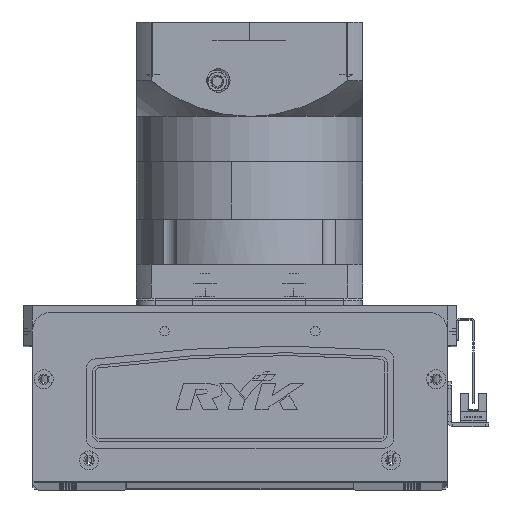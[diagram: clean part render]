
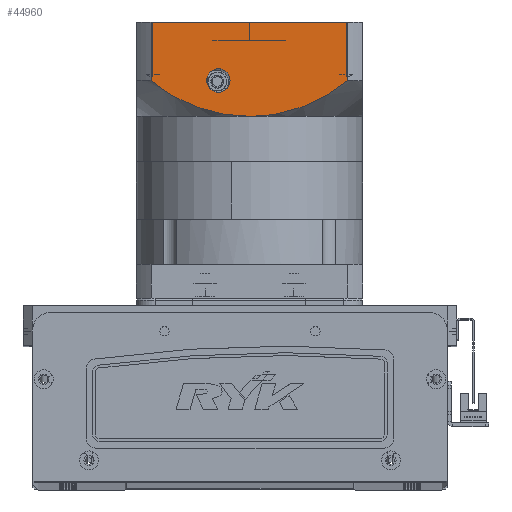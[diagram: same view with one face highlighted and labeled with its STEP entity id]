
A CAD part, top view. The second image highlights one B-rep face of the part: STEP entity #44960.
In plain terms, the highlighted planar face has unit normal (0, 0, 1) as drawn and (0, -1, 0) by its records, which use the part's own axes.
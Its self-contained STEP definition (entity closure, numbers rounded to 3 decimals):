
#1269 = AXIS2_PLACEMENT_3D ( 'NONE', #45824, #35621, #36074 ) ;
#1471 = DIRECTION ( 'NONE',  ( 0., 0., 1. ) ) ;
#1584 = ORIENTED_EDGE ( 'NONE', *, *, #1803, .F. ) ;
#1803 = EDGE_CURVE ( 'NONE', #60225, #49167, #32458, .T. ) ;
#3516 = CARTESIAN_POINT ( 'NONE',  ( -38.51, -60., -110.207 ) ) ;
#4438 = CARTESIAN_POINT ( 'NONE',  ( 45.542, -60., -114.478 ) ) ;
#4439 = CIRCLE ( 'NONE', #1269, 6.25 ) ;
#5550 = CARTESIAN_POINT ( 'NONE',  ( 52.156, -60., -150.5 ) ) ;
#6147 = CARTESIAN_POINT ( 'NONE',  ( -52.156, -60., -119.5 ) ) ;
#8146 = VERTEX_POINT ( 'NONE', #5550 ) ;
#8778 = CARTESIAN_POINT ( 'NONE',  ( 4.753, -60., -100.5 ) ) ;
#9162 = CARTESIAN_POINT ( 'NONE',  ( 52.156, -60., -119.5 ) ) ;
#10861 = CARTESIAN_POINT ( 'NONE',  ( 0., -60., -100.5 ) ) ;
#11562 = CARTESIAN_POINT ( 'NONE',  ( -60., -60., -150.5 ) ) ;
#12718 = DIRECTION ( 'NONE',  ( 0., 0., 1. ) ) ;
#13035 = CARTESIAN_POINT ( 'NONE',  ( -44.656, -60., -113.73 ) ) ;
#13275 = CARTESIAN_POINT ( 'NONE',  ( -35.342, -60., -108.587 ) ) ;
#14199 = CARTESIAN_POINT ( 'NONE',  ( 15.267, -60., -101.938 ) ) ;
#14654 = CARTESIAN_POINT ( 'NONE',  ( 36.444, -60., -108.986 ) ) ;
#14790 = DIRECTION ( 'NONE',  ( 0., 1., 0. ) ) ;
#18489 = CARTESIAN_POINT ( 'NONE',  ( -12.993, -60., -101.537 ) ) ;
#19349 = ORIENTED_EDGE ( 'NONE', *, *, #66098, .T. ) ;
#19448 = CARTESIAN_POINT ( 'NONE',  ( 16.426, -60., -102.169 ) ) ;
#19624 = CARTESIAN_POINT ( 'NONE',  ( -60., -60., -150.5 ) ) ;
#19680 = CARTESIAN_POINT ( 'NONE',  ( 32.196, -60., -107.007 ) ) ;
#19902 = CARTESIAN_POINT ( 'NONE',  ( 48.457, -60., -116.522 ) ) ;
#20069 = DIRECTION ( 'NONE',  ( 0., -1., 0. ) ) ;
#20704 = DIRECTION ( 'NONE',  ( 0., 0., -1. ) ) ;
#22187 = CARTESIAN_POINT ( 'NONE',  ( -52.156, -60., -97.5 ) ) ;
#23042 = ORIENTED_EDGE ( 'NONE', *, *, #35113, .F. ) ;
#23520 = CARTESIAN_POINT ( 'NONE',  ( -39.546, -60., -110.776 ) ) ;
#23754 = CARTESIAN_POINT ( 'NONE',  ( -11.825, -60., -101.356 ) ) ;
#23977 = CARTESIAN_POINT ( 'NONE',  ( -48.52, -60., -116.438 ) ) ;
#24681 = CARTESIAN_POINT ( 'NONE',  ( 19.894, -60., -102.964 ) ) ;
#25274 = CARTESIAN_POINT ( 'NONE',  ( 16.5, -60., -119.5 ) ) ;
#25801 = CARTESIAN_POINT ( 'NONE',  ( 42.555, -60., -112.543 ) ) ;
#27016 = EDGE_CURVE ( 'NONE', #57494, #51288, #4439, .T. ) ;
#28011 = CARTESIAN_POINT ( 'NONE',  ( 52.156, -60., -150.5 ) ) ;
#28944 = EDGE_LOOP ( 'NONE', ( #32022, #30423 ) ) ;
#30423 = ORIENTED_EDGE ( 'NONE', *, *, #56998, .T. ) ;
#30657 = CARTESIAN_POINT ( 'NONE',  ( -52.156, -60., -150.5 ) ) ;
#30714 = AXIS2_PLACEMENT_3D ( 'NONE', #19624, #20069, #41820 ) ;
#31631 = LINE ( 'NONE', #28011, #62509 ) ;
#32022 = ORIENTED_EDGE ( 'NONE', *, *, #27016, .T. ) ;
#32458 = B_SPLINE_CURVE_WITH_KNOTS ( 'NONE', 3,
 ( #34658, #8778, #60748, #14199, #19448, #55708, #24681, #66852, #61652, #19680, #14654, #62092, #25801, #45756, #4438, #19902, #50943, #56158 ),
 .UNSPECIFIED., .F., .F.,
 ( 4, 2, 2, 2, 2, 2, 2, 2, 4 ),
 ( 0., 0.014, 0.018, 0.021, 0.028, 0.042, 0.046, 0.05, 0.057 ),
 .UNSPECIFIED. ) ;
#32517 = FACE_BOUND ( 'NONE', #28944, .T. ) ;
#34637 = CARTESIAN_POINT ( 'NONE',  ( -9.477, -60., -101.046 ) ) ;
#34658 = CARTESIAN_POINT ( 'NONE',  ( 0., -60., -100.5 ) ) ;
#34726 = ORIENTED_EDGE ( 'NONE', *, *, #37762, .F. ) ;
#35113 = EDGE_CURVE ( 'NONE', #53814, #60225, #53931, .T. ) ;
#35621 = DIRECTION ( 'NONE',  ( 0., 1., 0. ) ) ;
#36074 = DIRECTION ( 'NONE',  ( 0., 0., -1. ) ) ;
#37762 = EDGE_CURVE ( 'NONE', #45569, #53814, #52312, .T. ) ;
#39404 = CARTESIAN_POINT ( 'NONE',  ( -32.118, -60., -107.084 ) ) ;
#40458 = VECTOR ( 'NONE', #58966, 1000. ) ;
#41820 = DIRECTION ( 'NONE',  ( 1., 0., 0. ) ) ;
#44166 = CARTESIAN_POINT ( 'NONE',  ( -8.294, -60., -100.916 ) ) ;
#44837 = CARTESIAN_POINT ( 'NONE',  ( -52.156, -60., -119.5 ) ) ;
#44960 = ADVANCED_FACE ( 'NONE', ( #49629, #32517 ), #50449, .T. ) ;
#45569 = VERTEX_POINT ( 'NONE', #30657 ) ;
#45619 = CARTESIAN_POINT ( 'NONE',  ( 16.5, -60., -113.25 ) ) ;
#45756 = CARTESIAN_POINT ( 'NONE',  ( 44.553, -60., -113.817 ) ) ;
#45824 = CARTESIAN_POINT ( 'NONE',  ( 16.5, -60., -119.5 ) ) ;
#49167 = VERTEX_POINT ( 'NONE', #9162 ) ;
#49584 = CARTESIAN_POINT ( 'NONE',  ( -29.939, -60., -106.183 ) ) ;
#49629 = FACE_OUTER_BOUND ( 'NONE', #53943, .T. ) ;
#50262 = CARTESIAN_POINT ( 'NONE',  ( 0., -60., -100.5 ) ) ;
#50449 = PLANE ( 'NONE',  #30714 ) ;
#50943 = CARTESIAN_POINT ( 'NONE',  ( 50.338, -60., -117.969 ) ) ;
#51288 = VERTEX_POINT ( 'NONE', #45619 ) ;
#52312 = LINE ( 'NONE', #22187, #55534 ) ;
#53814 = VERTEX_POINT ( 'NONE', #6147 ) ;
#53931 = B_SPLINE_CURVE_WITH_KNOTS ( 'NONE', 3,
 ( #44837, #23977, #13035, #23520, #3516, #55230, #13275, #39404, #49584, #65480, #54776, #18489, #23754, #34637, #44166, #60034, #60727, #50262 ),
 .UNSPECIFIED., .F., .F.,
 ( 4, 2, 2, 2, 2, 2, 2, 2, 4 ),
 ( 0., 0.014, 0.018, 0.021, 0.028, 0.042, 0.046, 0.05, 0.057 ),
 .UNSPECIFIED. ) ;
#53943 = EDGE_LOOP ( 'NONE', ( #34726, #65020, #19349, #1584, #23042 ) ) ;
#54776 = CARTESIAN_POINT ( 'NONE',  ( -18.792, -60., -102.562 ) ) ;
#55230 = CARTESIAN_POINT ( 'NONE',  ( -36.409, -60., -109.113 ) ) ;
#55534 = VECTOR ( 'NONE', #1471, 1000. ) ;
#55708 = CARTESIAN_POINT ( 'NONE',  ( 18.739, -60., -102.681 ) ) ;
#55976 = CARTESIAN_POINT ( 'NONE',  ( 16.5, -60., -125.75 ) ) ;
#56158 = CARTESIAN_POINT ( 'NONE',  ( 52.156, -60., -119.5 ) ) ;
#56998 = EDGE_CURVE ( 'NONE', #51288, #57494, #59901, .T. ) ;
#57240 = EDGE_CURVE ( 'NONE', #45569, #8146, #65647, .T. ) ;
#57494 = VERTEX_POINT ( 'NONE', #55976 ) ;
#58966 = DIRECTION ( 'NONE',  ( 1., 0., 0. ) ) ;
#59901 = CIRCLE ( 'NONE', #61099, 6.25 ) ;
#60034 = CARTESIAN_POINT ( 'NONE',  ( -4.747, -60., -100.604 ) ) ;
#60225 = VERTEX_POINT ( 'NONE', #10861 ) ;
#60727 = CARTESIAN_POINT ( 'NONE',  ( -2.376, -60., -100.5 ) ) ;
#60748 = CARTESIAN_POINT ( 'NONE',  ( 9.454, -60., -100.914 ) ) ;
#61099 = AXIS2_PLACEMENT_3D ( 'NONE', #25274, #14790, #20704 ) ;
#61652 = CARTESIAN_POINT ( 'NONE',  ( 25.577, -60., -104.596 ) ) ;
#62092 = CARTESIAN_POINT ( 'NONE',  ( 41.545, -60., -111.931 ) ) ;
#62509 = VECTOR ( 'NONE', #12718, 1000. ) ;
#65020 = ORIENTED_EDGE ( 'NONE', *, *, #57240, .T. ) ;
#65480 = CARTESIAN_POINT ( 'NONE',  ( -23.319, -60., -103.777 ) ) ;
#65647 = LINE ( 'NONE', #11562, #40458 ) ;
#66098 = EDGE_CURVE ( 'NONE', #8146, #49167, #31631, .T. ) ;
#66852 = CARTESIAN_POINT ( 'NONE',  ( 23.329, -60., -103.886 ) ) ;
